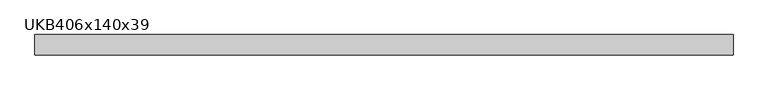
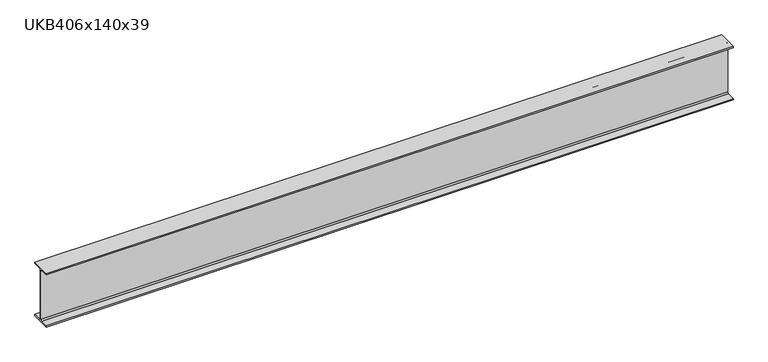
"""IFC4 building model written with IfcOpenShell, lengths in millimetres: beam geometry, UKB-UK Beams : UKB406x140x39."""

from ifc_helpers import new_model, si_unit, point, frame, frame_2d, origin, place, context, project, spatial, polyline, circle_curve, trimmed, segment, composite_curve, outline, extrude, source, transform, mapped, element, save


def ukb406x140x39_7e56880b(model_context):
    return source(origin(), model_context, "Body", "SweptSolid", [
        extrude(outline(composite_curve([segment(polyline([(70.9, -190.4), (70.9, -199.0), (-70.9, -199.0), (-70.9, -190.4), (-13.4, -190.4)]), True, "CONTINUOUS"), segment(trimmed(circle_curve(frame_2d((-13.4, -180.2)), 10.2), [point((-13.4, -190.4))], [point((-3.2, -180.2))], True, "CARTESIAN"), True, "CONTINUOUS"), segment(polyline([(-3.2, -180.2), (-3.2, 180.2)]), True, "CONTINUOUS"), segment(trimmed(circle_curve(frame_2d((-13.4, 180.2)), 10.2), [point((-3.2, 180.2))], [point((-13.4, 190.4))], True, "CARTESIAN"), True, "CONTINUOUS"), segment(polyline([(-13.4, 190.4), (-70.9, 190.4), (-70.9, 199.0), (70.9, 199.0), (70.9, 190.4), (13.4, 190.4)]), True, "CONTINUOUS"), segment(trimmed(circle_curve(frame_2d((13.4, 180.2)), 10.2), [point((13.4, 190.4))], [point((3.2, 180.2))], True, "CARTESIAN"), True, "CONTINUOUS"), segment(polyline([(3.2, 180.2), (3.2, -180.2)]), True, "CONTINUOUS"), segment(trimmed(circle_curve(frame_2d((13.4, -180.2)), 10.2), [point((3.2, -180.2))], [point((13.4, -190.4))], True, "CARTESIAN"), True, "CONTINUOUS"), segment(polyline([(13.4, -190.4), (70.9, -190.4)]), True, "CONTINUOUS")], self_intersect=False)), frame((-2425.5, 0.0, 0.0), z_axis=(1.0, 0.0, 0.0), x_axis=(0.0, 1.0, 0.0)), (0.0, 0.0, 1.0), 4851.0),
    ])


if __name__ == "__main__":
    model = new_model("IFC4")
    model_context = context("Model", 3, world=origin())
    ifc_project = project(units=[si_unit("LENGTHUNIT", "METRE", prefix="MILLI")], contexts=[model_context])
    site = spatial("IfcSite", under=ifc_project)
    building = spatial("IfcBuilding", under=site)
    placement = place(None, origin())
    ukb406x140x39_shape = ukb406x140x39_7e56880b(model_context)
    element("IfcBeam", 1, ObjectType="UKB-UK Beams : UKB406x140x39", at=placement, inside=building, context=model_context, shape_type="MappedRepresentation", body=[
        mapped(ukb406x140x39_shape, transform((0.0, 0.0, 0.0), x_axis=(1.0, 0.0, 0.0), y_axis=(0.0, 1.0, 0.0), z_axis=(0.0, 0.0, 1.0))),
    ])
    save(model, "model.ifc")
